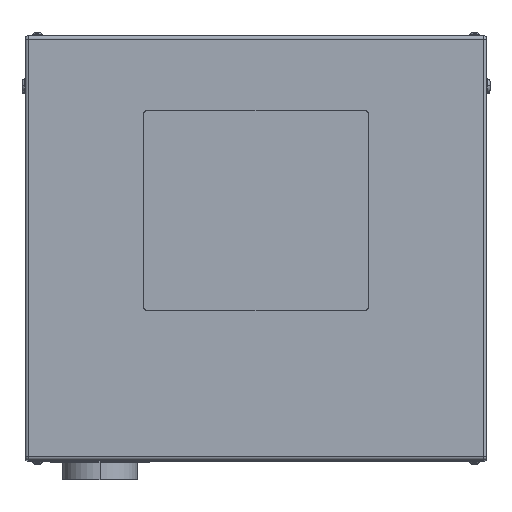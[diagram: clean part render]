
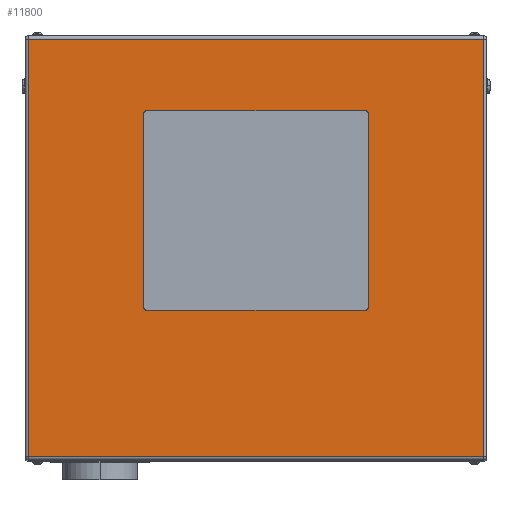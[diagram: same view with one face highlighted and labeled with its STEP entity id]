
A CAD part, top view. The second image highlights one B-rep face of the part: STEP entity #11800.
In plain terms, the highlighted planar face has unit normal (0, 0, 1).
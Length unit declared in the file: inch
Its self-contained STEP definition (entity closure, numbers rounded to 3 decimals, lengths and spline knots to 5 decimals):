
#25 = ORIENTED_EDGE ( 'NONE', *, *, #6584, .T. ) ;
#366 = VERTEX_POINT ( 'NONE', #3898 ) ;
#614 = VERTEX_POINT ( 'NONE', #19455 ) ;
#977 = DIRECTION ( 'NONE',  ( 1., 0., 0. ) ) ;
#1012 = EDGE_CURVE ( 'NONE', #614, #5104, #18265, .T. ) ;
#1108 = CARTESIAN_POINT ( 'NONE',  ( 8.75, 10.75, 29. ) ) ;
#1290 = CARTESIAN_POINT ( 'NONE',  ( -8.75, -4.75, 29. ) ) ;
#1350 = EDGE_CURVE ( 'NONE', #366, #17506, #1863, .T. ) ;
#1356 = DIRECTION ( 'NONE',  ( 1., 0., 0. ) ) ;
#1584 = DIRECTION ( 'NONE',  ( 0., 0., 1. ) ) ;
#1863 = LINE ( 'NONE', #8619, #13225 ) ;
#1919 = ORIENTED_EDGE ( 'NONE', *, *, #1012, .F. ) ;
#2056 = EDGE_CURVE ( 'NONE', #14767, #8313, #11244, .T. ) ;
#2396 = VERTEX_POINT ( 'NONE', #19665 ) ;
#2454 = VERTEX_POINT ( 'NONE', #10619 ) ;
#3020 = DIRECTION ( 'NONE',  ( 0., 0., 1. ) ) ;
#3173 = LINE ( 'NONE', #6913, #9329 ) ;
#3385 = LINE ( 'NONE', #11933, #6738 ) ;
#3528 = LINE ( 'NONE', #5040, #7101 ) ;
#3627 = VECTOR ( 'NONE', #16694, 39.37008 ) ;
#3691 = LINE ( 'NONE', #5443, #8231 ) ;
#3898 = CARTESIAN_POINT ( 'NONE',  ( -18.234, -16.734, 29. ) ) ;
#3938 = ORIENTED_EDGE ( 'NONE', *, *, #1350, .T. ) ;
#4211 = AXIS2_PLACEMENT_3D ( 'NONE', #12132, #13767, #4732 ) ;
#4479 = ORIENTED_EDGE ( 'NONE', *, *, #2056, .F. ) ;
#4732 = DIRECTION ( 'NONE',  ( 1., 0., 0. ) ) ;
#5040 = CARTESIAN_POINT ( 'NONE',  ( -8.75, -5., 29. ) ) ;
#5067 = AXIS2_PLACEMENT_3D ( 'NONE', #1290, #3020, #1356 ) ;
#5104 = VERTEX_POINT ( 'NONE', #8516 ) ;
#5443 = CARTESIAN_POINT ( 'NONE',  ( -18.234, 17., 29. ) ) ;
#5446 = EDGE_CURVE ( 'NONE', #13576, #13701, #15780, .T. ) ;
#5691 = ORIENTED_EDGE ( 'NONE', *, *, #15539, .T. ) ;
#5749 = EDGE_CURVE ( 'NONE', #17506, #9542, #14669, .T. ) ;
#6193 = DIRECTION ( 'NONE',  ( -1., 0., 0. ) ) ;
#6584 = EDGE_CURVE ( 'NONE', #2396, #366, #3691, .T. ) ;
#6738 = VECTOR ( 'NONE', #11998, 39.37008 ) ;
#6913 = CARTESIAN_POINT ( 'NONE',  ( 18.5, 16.734, 29. ) ) ;
#7101 = VECTOR ( 'NONE', #15598, 39.37008 ) ;
#7207 = VERTEX_POINT ( 'NONE', #19180 ) ;
#7248 = EDGE_LOOP ( 'NONE', ( #18429, #7807, #14844, #1919, #15587, #4479, #7648, #7857 ) ) ;
#7270 = CARTESIAN_POINT ( 'NONE',  ( 8.75, 11., 29. ) ) ;
#7648 = ORIENTED_EDGE ( 'NONE', *, *, #16350, .F. ) ;
#7664 = LINE ( 'NONE', #9009, #3627 ) ;
#7807 = ORIENTED_EDGE ( 'NONE', *, *, #7905, .F. ) ;
#7857 = ORIENTED_EDGE ( 'NONE', *, *, #5446, .F. ) ;
#7905 = EDGE_CURVE ( 'NONE', #7207, #2454, #11676, .T. ) ;
#8231 = VECTOR ( 'NONE', #14474, 39.37008 ) ;
#8313 = VERTEX_POINT ( 'NONE', #7270 ) ;
#8516 = CARTESIAN_POINT ( 'NONE',  ( -9., 10.75, 29. ) ) ;
#8619 = CARTESIAN_POINT ( 'NONE',  ( 18.234, -16.734, 29. ) ) ;
#8947 = AXIS2_PLACEMENT_3D ( 'NONE', #13674, #16913, #6193 ) ;
#9009 = CARTESIAN_POINT ( 'NONE',  ( -8.75, 11., 29. ) ) ;
#9021 = EDGE_CURVE ( 'NONE', #8313, #614, #7664, .T. ) ;
#9073 = PLANE ( 'NONE',  #8947 ) ;
#9329 = VECTOR ( 'NONE', #12979, 39.37008 ) ;
#9524 = CARTESIAN_POINT ( 'NONE',  ( 9., 10.75, 29. ) ) ;
#9542 = VERTEX_POINT ( 'NONE', #16420 ) ;
#9780 = CARTESIAN_POINT ( 'NONE',  ( 18.234, -16.734, 29. ) ) ;
#10155 = VECTOR ( 'NONE', #17526, 39.37008 ) ;
#10619 = CARTESIAN_POINT ( 'NONE',  ( -8.75, -5., 29. ) ) ;
#10703 = DIRECTION ( 'NONE',  ( 1., 0., 0. ) ) ;
#11079 = EDGE_CURVE ( 'NONE', #5104, #7207, #3385, .T. ) ;
#11244 = CIRCLE ( 'NONE', #16176, 0.25 ) ;
#11305 = CARTESIAN_POINT ( 'NONE',  ( 18.234, 17., 29. ) ) ;
#11676 = CIRCLE ( 'NONE', #5067, 0.25 ) ;
#11686 = DIRECTION ( 'NONE',  ( -1., 0., 0. ) ) ;
#11800 = ADVANCED_FACE ( 'NONE', ( #12796, #11866 ), #9073, .F. ) ;
#11866 = FACE_OUTER_BOUND ( 'NONE', #16891, .T. ) ;
#11933 = CARTESIAN_POINT ( 'NONE',  ( -9., 10.75, 29. ) ) ;
#11998 = DIRECTION ( 'NONE',  ( 0., -1., 0. ) ) ;
#12132 = CARTESIAN_POINT ( 'NONE',  ( -8.75, 10.75, 29. ) ) ;
#12662 = CARTESIAN_POINT ( 'NONE',  ( 9., 10.75, 29. ) ) ;
#12796 = FACE_BOUND ( 'NONE', #7248, .T. ) ;
#12979 = DIRECTION ( 'NONE',  ( -1., 0., 0. ) ) ;
#13225 = VECTOR ( 'NONE', #977, 39.37008 ) ;
#13310 = EDGE_CURVE ( 'NONE', #2454, #13576, #3528, .T. ) ;
#13576 = VERTEX_POINT ( 'NONE', #19402 ) ;
#13674 = CARTESIAN_POINT ( 'NONE',  ( 18.5, 17., 29. ) ) ;
#13701 = VERTEX_POINT ( 'NONE', #16729 ) ;
#13767 = DIRECTION ( 'NONE',  ( 0., 0., 1. ) ) ;
#13985 = DIRECTION ( 'NONE',  ( 0., 1., 0. ) ) ;
#14474 = DIRECTION ( 'NONE',  ( 0., -1., 0. ) ) ;
#14669 = LINE ( 'NONE', #11305, #10155 ) ;
#14767 = VERTEX_POINT ( 'NONE', #9524 ) ;
#14844 = ORIENTED_EDGE ( 'NONE', *, *, #11079, .F. ) ;
#15173 = VECTOR ( 'NONE', #13985, 39.37008 ) ;
#15196 = LINE ( 'NONE', #12662, #15173 ) ;
#15539 = EDGE_CURVE ( 'NONE', #9542, #2396, #3173, .T. ) ;
#15587 = ORIENTED_EDGE ( 'NONE', *, *, #9021, .F. ) ;
#15598 = DIRECTION ( 'NONE',  ( 1., 0., 0. ) ) ;
#15780 = CIRCLE ( 'NONE', #17047, 0.25 ) ;
#16176 = AXIS2_PLACEMENT_3D ( 'NONE', #1108, #16230, #11686 ) ;
#16230 = DIRECTION ( 'NONE',  ( 0., 0., 1. ) ) ;
#16350 = EDGE_CURVE ( 'NONE', #13701, #14767, #15196, .T. ) ;
#16420 = CARTESIAN_POINT ( 'NONE',  ( 18.234, 16.734, 29. ) ) ;
#16694 = DIRECTION ( 'NONE',  ( -1., 0., 0. ) ) ;
#16729 = CARTESIAN_POINT ( 'NONE',  ( 9., -4.75, 29. ) ) ;
#16785 = CARTESIAN_POINT ( 'NONE',  ( 8.75, -4.75, 29. ) ) ;
#16891 = EDGE_LOOP ( 'NONE', ( #25, #3938, #17296, #5691 ) ) ;
#16913 = DIRECTION ( 'NONE',  ( 0., 0., -1. ) ) ;
#17047 = AXIS2_PLACEMENT_3D ( 'NONE', #16785, #1584, #10703 ) ;
#17296 = ORIENTED_EDGE ( 'NONE', *, *, #5749, .T. ) ;
#17506 = VERTEX_POINT ( 'NONE', #9780 ) ;
#17526 = DIRECTION ( 'NONE',  ( 0., 1., 0. ) ) ;
#18265 = CIRCLE ( 'NONE', #4211, 0.25 ) ;
#18429 = ORIENTED_EDGE ( 'NONE', *, *, #13310, .F. ) ;
#19180 = CARTESIAN_POINT ( 'NONE',  ( -9., -4.75, 29. ) ) ;
#19402 = CARTESIAN_POINT ( 'NONE',  ( 8.75, -5., 29. ) ) ;
#19455 = CARTESIAN_POINT ( 'NONE',  ( -8.75, 11., 29. ) ) ;
#19665 = CARTESIAN_POINT ( 'NONE',  ( -18.234, 16.734, 29. ) ) ;
